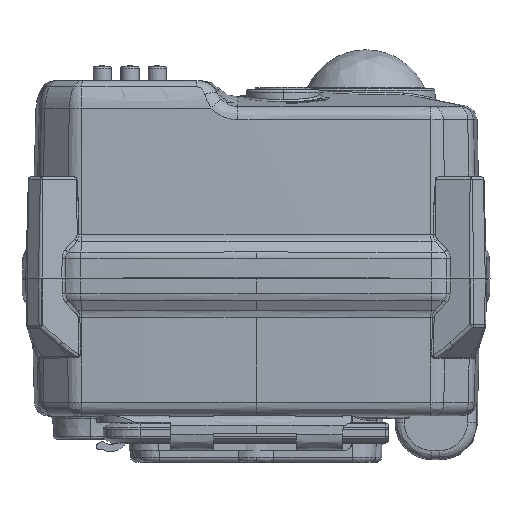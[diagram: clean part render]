
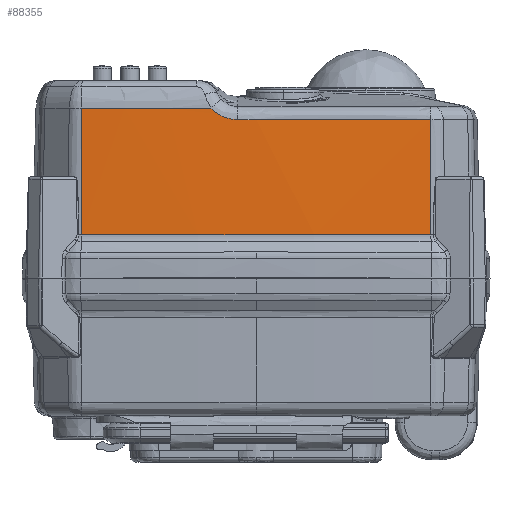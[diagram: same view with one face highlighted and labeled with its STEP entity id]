
A CAD part, top view. The second image highlights one B-rep face of the part: STEP entity #88355.
In plain terms, the highlighted conical face has half-angle 1.5 degrees and reference radius 800.254 mm.
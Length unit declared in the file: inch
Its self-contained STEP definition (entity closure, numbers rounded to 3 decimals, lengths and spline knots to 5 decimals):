
#708 = EDGE_CURVE ( 'NONE', #86354, #94786, #72736, .T. ) ;
#1034 = CARTESIAN_POINT ( 'NONE',  ( -0.20043, 1.35878, 1.263 ) ) ;
#1470 = ORIENTED_EDGE ( 'NONE', *, *, #48737, .T. ) ;
#4058 = LINE ( 'NONE', #92066, #40692 ) ;
#4750 = DIRECTION ( 'NONE',  ( 0., 1., 0. ) ) ;
#5737 = FACE_OUTER_BOUND ( 'NONE', #46439, .T. ) ;
#5749 = CARTESIAN_POINT ( 'NONE',  ( 1.42157, 1.35605, 1.23184 ) ) ;
#6069 = CARTESIAN_POINT ( 'NONE',  ( 0.74952, 1.35672, 1.25476 ) ) ;
#6659 = VERTEX_POINT ( 'NONE', #85512 ) ;
#8334 = CARTESIAN_POINT ( 'NONE',  ( -0.15763, 1.35662, 1.26329 ) ) ;
#8463 = CARTESIAN_POINT ( 'NONE',  ( -0.24253, 1.3681, 1.26245 ) ) ;
#11901 = DIRECTION ( 'NONE',  ( 0.001, 1., -0.026 ) ) ;
#13157 = CARTESIAN_POINT ( 'NONE',  ( 1.15768, 1.35643, 1.24253 ) ) ;
#13470 = CARTESIAN_POINT ( 'NONE',  ( 0.74893, 1.35672, 1.25478 ) ) ;
#14144 = ORIENTED_EDGE ( 'NONE', *, *, #67787, .F. ) ;
#15839 = CARTESIAN_POINT ( 'NONE',  ( -0.27315, 1.37843, 1.26193 ) ) ;
#15849 = EDGE_CURVE ( 'NONE', #17034, #28854, #83213, .T. ) ;
#17034 = VERTEX_POINT ( 'NONE', #38985 ) ;
#20528 = CARTESIAN_POINT ( 'NONE',  ( 0.97133, 1.35658, 1.24874 ) ) ;
#20828 = CARTESIAN_POINT ( 'NONE',  ( 0.49658, 1.35685, 1.26078 ) ) ;
#21486 = DIRECTION ( 'NONE',  ( 0., 0., 1. ) ) ;
#22746 = CARTESIAN_POINT ( 'NONE',  ( -0.10509, 1.35666, 1.26356 ) ) ;
#23165 = CARTESIAN_POINT ( 'NONE',  ( -0.30241, 1.39176, 1.26132 ) ) ;
#26111 = AXIS2_PLACEMENT_3D ( 'NONE', #80652, #29494, #80309 ) ;
#26699 = CARTESIAN_POINT ( 'NONE',  ( 25.96216, -19645.66929, 515.12152 ) ) ;
#27738 = CARTESIAN_POINT ( 'NONE',  ( 1.497, 1.35556, 1.2281 ) ) ;
#27809 = CARTESIAN_POINT ( 'NONE',  ( 0.85086, 1.35666, 1.25221 ) ) ;
#28143 = CARTESIAN_POINT ( 'NONE',  ( 0., 1.35672, 1.26369 ) ) ;
#28854 = VERTEX_POINT ( 'NONE', #85844 ) ;
#29494 = DIRECTION ( 'NONE',  ( 0., -1., 0. ) ) ;
#30479 = CARTESIAN_POINT ( 'NONE',  ( -0.33003, 1.40792, 1.26062 ) ) ;
#32295 = AXIS2_PLACEMENT_3D ( 'NONE', #82819, #39085, #90157 ) ;
#34659 = ORIENTED_EDGE ( 'NONE', *, *, #15849, .T. ) ;
#35201 = CARTESIAN_POINT ( 'NONE',  ( 0.77483, 1.3567, 1.25415 ) ) ;
#37249 = CARTESIAN_POINT ( 'NONE',  ( -0.17916, 1.35661, 1.26319 ) ) ;
#37877 = CARTESIAN_POINT ( 'NONE',  ( -0.37287, 1.44083, 1.25928 ) ) ;
#38985 = CARTESIAN_POINT ( 'NONE',  ( 0., 1.35672, 1.26369 ) ) ;
#39085 = DIRECTION ( 'NONE',  ( 0., -1., 0. ) ) ;
#40123 = CONICAL_SURFACE ( 'NONE', #26111, 31.50607, 0.026 ) ;
#40692 = VECTOR ( 'NONE', #11901, 39.37008 ) ;
#42520 = CARTESIAN_POINT ( 'NONE',  ( 0.75527, 1.35671, 1.25462 ) ) ;
#43153 = CARTESIAN_POINT ( 'NONE',  ( 1.49823, 0.3697, 1.25389 ) ) ;
#46439 = EDGE_LOOP ( 'NONE', ( #14144, #65866, #66569, #1470, #34659, #67700, #89777 ) ) ;
#47312 = VECTOR ( 'NONE', #70551, 39.37008 ) ;
#48737 = EDGE_CURVE ( 'NONE', #61247, #17034, #77639, .T. ) ;
#49564 = CARTESIAN_POINT ( 'NONE',  ( 1.48826, 1.35582, 1.22851 ) ) ;
#49901 = CARTESIAN_POINT ( 'NONE',  ( 0.75034, 1.35672, 1.25474 ) ) ;
#52155 = CARTESIAN_POINT ( 'NONE',  ( 0., 1.35672, 1.26369 ) ) ;
#52267 = CARTESIAN_POINT ( 'NONE',  ( -0.23213, 1.36538, 1.2626 ) ) ;
#54317 = EDGE_CURVE ( 'NONE', #28854, #82513, #59098, .T. ) ;
#56897 = CARTESIAN_POINT ( 'NONE',  ( 1.23452, 1.35634, 1.23954 ) ) ;
#57191 = CARTESIAN_POINT ( 'NONE',  ( 0.74917, 1.35672, 1.25477 ) ) ;
#59098 = B_SPLINE_CURVE_WITH_KNOTS ( 'NONE', 3,
 ( #81322, #37249, #1034, #52267, #8463, #59565, #15839, #66928, #23165, #74304, #30479, #81638, #37877, #88966 ),
 .UNSPECIFIED., .F., .F.,
 ( 4, 2, 2, 2, 2, 2, 4 ),
 ( 0., 0.25, 0.375, 0.5, 0.625, 0.75, 1. ),
 .UNSPECIFIED. ) ;
#59565 = CARTESIAN_POINT ( 'NONE',  ( -0.26301, 1.37461, 1.26212 ) ) ;
#61247 = VERTEX_POINT ( 'NONE', #27738 ) ;
#61668 = EDGE_CURVE ( 'NONE', #61247, #94786, #83869, .T. ) ;
#64214 = CARTESIAN_POINT ( 'NONE',  ( 1.02064, 1.35654, 1.24717 ) ) ;
#64548 = CARTESIAN_POINT ( 'NONE',  ( 0.74876, 1.35672, 1.25478 ) ) ;
#64697 = AXIS2_PLACEMENT_3D ( 'NONE', #74203, #4750, #21486 ) ;
#65866 = ORIENTED_EDGE ( 'NONE', *, *, #708, .T. ) ;
#66569 = ORIENTED_EDGE ( 'NONE', *, *, #61668, .F. ) ;
#66928 = CARTESIAN_POINT ( 'NONE',  ( -0.29284, 1.387, 1.26153 ) ) ;
#67700 = ORIENTED_EDGE ( 'NONE', *, *, #54317, .T. ) ;
#67787 = EDGE_CURVE ( 'NONE', #86354, #6659, #4058, .T. ) ;
#68469 = EDGE_CURVE ( 'NONE', #82513, #6659, #90887, .T. ) ;
#70551 = DIRECTION ( 'NONE',  ( 0.001, -1., 0.026 ) ) ;
#71649 = CARTESIAN_POINT ( 'NONE',  ( 0.89193, 1.35664, 1.25106 ) ) ;
#71943 = CARTESIAN_POINT ( 'NONE',  ( 0.24699, 1.35685, 1.26368 ) ) ;
#72736 = CIRCLE ( 'NONE', #64697, 31.50607 ) ;
#73901 = CARTESIAN_POINT ( 'NONE',  ( -0.05254, 1.35669, 1.26369 ) ) ;
#74203 = CARTESIAN_POINT ( 'NONE',  ( 0., 0.3697, -30.21654 ) ) ;
#74304 = CARTESIAN_POINT ( 'NONE',  ( -0.32104, 1.40225, 1.26086 ) ) ;
#75221 = CARTESIAN_POINT ( 'NONE',  ( -0.38771, 1.45669, 1.25868 ) ) ;
#75921 = CARTESIAN_POINT ( 'NONE',  ( -1.49823, 0.3697, 1.25389 ) ) ;
#77639 = B_SPLINE_CURVE_WITH_KNOTS ( 'NONE', 3,
 ( #93292, #49564, #5749, #56897, #13157, #64214, #20528, #71649, #27809, #78952, #35201, #86278, #42520, #93586, #49901, #6069, #57191, #13470, #64548, #20828, #71943, #28143 ),
 .UNSPECIFIED., .F., .F.,
 ( 4, 2, 2, 2, 1, 1, 1, 1, 1, 1, 1, 1, 2, 2, 4 ),
 ( 0., 0.25, 0.375, 0.4375, 0.46875, 0.48438, 0.49219, 0.49609, 0.49805, 0.49902, 0.49951, 0.49976, 0.49988, 0.5, 1. ),
 .UNSPECIFIED. ) ;
#78952 = CARTESIAN_POINT ( 'NONE',  ( 0.80057, 1.35669, 1.25351 ) ) ;
#80309 = DIRECTION ( 'NONE',  ( 0., 0., -1. ) ) ;
#80652 = CARTESIAN_POINT ( 'NONE',  ( 0., 0.3697, -30.21654 ) ) ;
#81322 = CARTESIAN_POINT ( 'NONE',  ( -0.15763, 1.35662, 1.26329 ) ) ;
#81638 = CARTESIAN_POINT ( 'NONE',  ( -0.3566, 1.42666, 1.25984 ) ) ;
#82513 = VERTEX_POINT ( 'NONE', #75221 ) ;
#82819 = CARTESIAN_POINT ( 'NONE',  ( 0., 1.45669, -30.21654 ) ) ;
#83213 = B_SPLINE_CURVE_WITH_KNOTS ( 'NONE', 3,
 ( #52155, #73901, #22746, #8334 ),
 .UNSPECIFIED., .F., .F.,
 ( 4, 4 ),
 ( 0., 1. ),
 .UNSPECIFIED. ) ;
#83869 = LINE ( 'NONE', #26699, #47312 ) ;
#85512 = CARTESIAN_POINT ( 'NONE',  ( -1.49687, 1.45669, 1.22546 ) ) ;
#85844 = CARTESIAN_POINT ( 'NONE',  ( -0.15763, 1.35662, 1.26329 ) ) ;
#86278 = CARTESIAN_POINT ( 'NONE',  ( 0.76182, 1.35671, 1.25447 ) ) ;
#86354 = VERTEX_POINT ( 'NONE', #75921 ) ;
#88355 = ADVANCED_FACE ( 'NONE', ( #5737 ), #40123, .T. ) ;
#88966 = CARTESIAN_POINT ( 'NONE',  ( -0.38771, 1.45669, 1.25868 ) ) ;
#89777 = ORIENTED_EDGE ( 'NONE', *, *, #68469, .T. ) ;
#90157 = DIRECTION ( 'NONE',  ( 0., 0., 1. ) ) ;
#90887 = CIRCLE ( 'NONE', #32295, 31.4776 ) ;
#92066 = CARTESIAN_POINT ( 'NONE',  ( -25.96216, -19645.66929, 515.12152 ) ) ;
#93292 = CARTESIAN_POINT ( 'NONE',  ( 1.497, 1.35556, 1.2281 ) ) ;
#93586 = CARTESIAN_POINT ( 'NONE',  ( 0.75199, 1.35672, 1.2547 ) ) ;
#94786 = VERTEX_POINT ( 'NONE', #43153 ) ;
